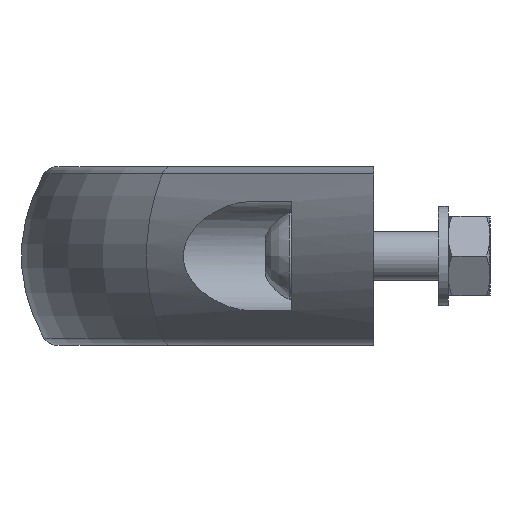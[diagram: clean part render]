
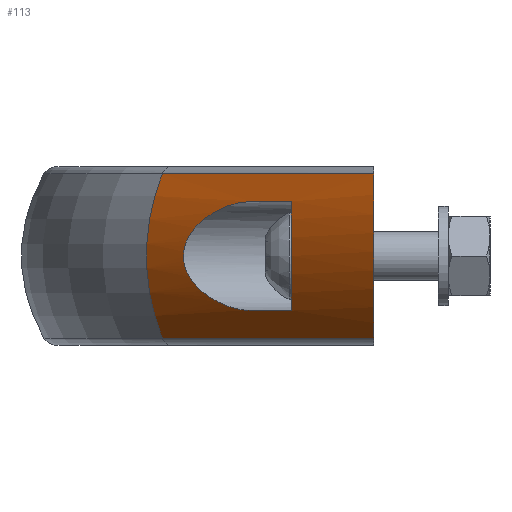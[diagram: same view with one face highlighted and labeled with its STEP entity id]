
A CAD part, left-side view. The second image highlights one B-rep face of the part: STEP entity #113.
In plain terms, the highlighted cylindrical face has radius 32.5 mm (diameter 65 mm), a partial arc.
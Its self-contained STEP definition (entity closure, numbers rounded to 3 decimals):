
#113 = ADVANCED_FACE( '', ( #289, #290 ), #291, .T. );
#289 = FACE_OUTER_BOUND( '', #607, .T. );
#290 = FACE_BOUND( '', #608, .T. );
#291 = CYLINDRICAL_SURFACE( '', #609, 32.5 );
#607 = EDGE_LOOP( '', ( #1100, #1101, #1102, #1103 ) );
#608 = EDGE_LOOP( '', ( #1104, #1105, #1106, #1107 ) );
#609 = AXIS2_PLACEMENT_3D( '', #1108, #1109, #1110 );
#1100 = ORIENTED_EDGE( '', *, *, #1810, .F. );
#1101 = ORIENTED_EDGE( '', *, *, #1811, .T. );
#1102 = ORIENTED_EDGE( '', *, *, #1812, .F. );
#1103 = ORIENTED_EDGE( '', *, *, #1807, .F. );
#1104 = ORIENTED_EDGE( '', *, *, #1813, .F. );
#1105 = ORIENTED_EDGE( '', *, *, #1814, .F. );
#1106 = ORIENTED_EDGE( '', *, *, #1815, .F. );
#1107 = ORIENTED_EDGE( '', *, *, #1816, .F. );
#1108 = CARTESIAN_POINT( '', ( -296.979, -65.558, 0. ) );
#1109 = DIRECTION( '', ( -0.707, -0.707, 0. ) );
#1110 = DIRECTION( '', ( -0.707, 0.707, 0. ) );
#1807 = EDGE_CURVE( '', #2139, #2142, #2143, .T. );
#1810 = EDGE_CURVE( '', #2147, #2139, #2148, .T. );
#1811 = EDGE_CURVE( '', #2147, #2149, #2150, .T. );
#1812 = EDGE_CURVE( '', #2142, #2149, #2151, .T. );
#1813 = EDGE_CURVE( '', #2152, #2153, #2154, .F. );
#1814 = EDGE_CURVE( '', #2155, #2152, #2156, .T. );
#1815 = EDGE_CURVE( '', #2157, #2155, #2158, .T. );
#1816 = EDGE_CURVE( '', #2153, #2157, #2159, .T. );
#2139 = VERTEX_POINT( '', #2860 );
#2142 = VERTEX_POINT( '', #2863 );
#2143 = LINE( '', #2864, #2865 );
#2147 = VERTEX_POINT( '', #2870 );
#2148 = ELLIPSE( '', #2871, 45.962, 32.5 );
#2149 = VERTEX_POINT( '', #2872 );
#2150 = LINE( '', #2873, #2874 );
#2151 = CIRCLE( '', #2875, 32.5 );
#2152 = VERTEX_POINT( '', #2876 );
#2153 = VERTEX_POINT( '', #2877 );
#2154 = LINE( '', #2878, #2879 );
#2155 = VERTEX_POINT( '', #2880 );
#2156 = B_SPLINE_CURVE_WITH_KNOTS( '', 3, ( #2881, #2882, #2883, #2884, #2885, #2886, #2887, #2888, #2889, #2890, #2891, #2892, #2893, #2894, #2895, #2896, #2897, #2898, #2899, #2900, #2901, #2902, #2903, #2904, #2905, #2906, #2907, #2908, #2909, #2910, #2911, #2912, #2913, #2914, #2915, #2916, #2917, #2918, #2919, #2920, #2921, #2922, #2923, #2924, #2925, #2926, #2927, #2928, #2929, #2930, #2931, #2932, #2933, #2934 ), .UNSPECIFIED., .F., .F., ( 4, 2, 2, 2, 2, 2, 2, 2, 2, 2, 2, 2, 2, 2, 2, 2, 2, 2, 2, 2, 2, 2, 2, 2, 2, 2, 4 ), ( 0.017, 0.019, 0.022, 0.025, 0.028, 0.031, 0.032, 0.034, 0.034, 0.035, 0.036, 0.037, 0.038, 0.039, 0.04, 0.041, 0.041, 0.042, 0.043, 0.045, 0.048, 0.05, 0.053, 0.056, 0.057, 0.059, 0.062 ), .UNSPECIFIED. );
#2157 = VERTEX_POINT( '', #2935 );
#2158 = LINE( '', #2936, #2937 );
#2159 = ELLIPSE( '', #2938, 45.962, 32.5 );
#2860 = CARTESIAN_POINT( '', ( -270.997, 0., -16.525 ) );
#2863 = CARTESIAN_POINT( '', ( -228.379, 42.619, -16.525 ) );
#2864 = CARTESIAN_POINT( '', ( -316.767, -45.77, -16.525 ) );
#2865 = VECTOR( '', #3380, 1000. );
#2870 = CARTESIAN_POINT( '', ( -270.997, 0., 16.525 ) );
#2871 = AXIS2_PLACEMENT_3D( '', #3385, #3386, #3387 );
#2872 = CARTESIAN_POINT( '', ( -228.379, 42.619, 16.525 ) );
#2873 = CARTESIAN_POINT( '', ( -316.767, -45.77, 16.525 ) );
#2874 = VECTOR( '', #3388, 1000. );
#2875 = AXIS2_PLACEMENT_3D( '', #3389, #3390, #3391 );
#2876 = CARTESIAN_POINT( '', ( -250., 24.67, -11. ) );
#2877 = CARTESIAN_POINT( '', ( -258.07, 16.6, -11. ) );
#2878 = CARTESIAN_POINT( '', ( -318.603, -43.933, -11. ) );
#2879 = VECTOR( '', #3392, 1000. );
#2880 = CARTESIAN_POINT( '', ( -250., 24.67, 11. ) );
#2881 = CARTESIAN_POINT( '', ( -250., 24.67, 11. ) );
#2882 = CARTESIAN_POINT( '', ( -249.332, 25.337, 11. ) );
#2883 = CARTESIAN_POINT( '', ( -248.687, 26.014, 10.94 ) );
#2884 = CARTESIAN_POINT( '', ( -247.433, 27.38, 10.715 ) );
#2885 = CARTESIAN_POINT( '', ( -246.825, 28.069, 10.551 ) );
#2886 = CARTESIAN_POINT( '', ( -245.641, 29.458, 10.119 ) );
#2887 = CARTESIAN_POINT( '', ( -245.062, 30.161, 9.85 ) );
#2888 = CARTESIAN_POINT( '', ( -243.959, 31.54, 9.215 ) );
#2889 = CARTESIAN_POINT( '', ( -243.433, 32.218, 8.849 ) );
#2890 = CARTESIAN_POINT( '', ( -242.429, 33.54, 8.007 ) );
#2891 = CARTESIAN_POINT( '', ( -241.952, 34.185, 7.532 ) );
#2892 = CARTESIAN_POINT( '', ( -241.278, 35.115, 6.712 ) );
#2893 = CARTESIAN_POINT( '', ( -241.059, 35.42, 6.419 ) );
#2894 = CARTESIAN_POINT( '', ( -240.644, 36.004, 5.796 ) );
#2895 = CARTESIAN_POINT( '', ( -240.447, 36.283, 5.468 ) );
#2896 = CARTESIAN_POINT( '', ( -240.172, 36.675, 4.945 ) );
#2897 = CARTESIAN_POINT( '', ( -240.084, 36.802, 4.766 ) );
#2898 = CARTESIAN_POINT( '', ( -239.914, 37.046, 4.396 ) );
#2899 = CARTESIAN_POINT( '', ( -239.833, 37.164, 4.204 ) );
#2900 = CARTESIAN_POINT( '', ( -239.603, 37.497, 3.618 ) );
#2901 = CARTESIAN_POINT( '', ( -239.47, 37.692, 3.211 ) );
#2902 = CARTESIAN_POINT( '', ( -239.303, 37.937, 2.572 ) );
#2903 = CARTESIAN_POINT( '', ( -239.253, 38.01, 2.354 ) );
#2904 = CARTESIAN_POINT( '', ( -239.164, 38.14, 1.909 ) );
#2905 = CARTESIAN_POINT( '', ( -239.126, 38.196, 1.679 ) );
#2906 = CARTESIAN_POINT( '', ( -239.034, 38.332, 0.981 ) );
#2907 = CARTESIAN_POINT( '', ( -239.002, 38.38, 0.512 ) );
#2908 = CARTESIAN_POINT( '', ( -238.999, 38.383, -0.2 ) );
#2909 = CARTESIAN_POINT( '', ( -239.006, 38.373, -0.439 ) );
#2910 = CARTESIAN_POINT( '', ( -239.035, 38.33, -0.914 ) );
#2911 = CARTESIAN_POINT( '', ( -239.058, 38.297, -1.148 ) );
#2912 = CARTESIAN_POINT( '', ( -239.116, 38.211, -1.61 ) );
#2913 = CARTESIAN_POINT( '', ( -239.152, 38.158, -1.838 ) );
#2914 = CARTESIAN_POINT( '', ( -239.238, 38.031, -2.288 ) );
#2915 = CARTESIAN_POINT( '', ( -239.288, 37.958, -2.51 ) );
#2916 = CARTESIAN_POINT( '', ( -239.455, 37.714, -3.162 ) );
#2917 = CARTESIAN_POINT( '', ( -239.588, 37.519, -3.572 ) );
#2918 = CARTESIAN_POINT( '', ( -239.889, 37.082, -4.353 ) );
#2919 = CARTESIAN_POINT( '', ( -240.058, 36.839, -4.724 ) );
#2920 = CARTESIAN_POINT( '', ( -240.609, 36.051, -5.783 ) );
#2921 = CARTESIAN_POINT( '', ( -241.022, 35.468, -6.396 ) );
#2922 = CARTESIAN_POINT( '', ( -241.919, 34.23, -7.497 ) );
#2923 = CARTESIAN_POINT( '', ( -242.407, 33.57, -7.987 ) );
#2924 = CARTESIAN_POINT( '', ( -243.422, 32.231, -8.841 ) );
#2925 = CARTESIAN_POINT( '', ( -243.951, 31.55, -9.209 ) );
#2926 = CARTESIAN_POINT( '', ( -245.052, 30.173, -9.845 ) );
#2927 = CARTESIAN_POINT( '', ( -245.624, 29.478, -10.112 ) );
#2928 = CARTESIAN_POINT( '', ( -246.52, 28.427, -10.44 ) );
#2929 = CARTESIAN_POINT( '', ( -246.824, 28.076, -10.536 ) );
#2930 = CARTESIAN_POINT( '', ( -247.439, 27.38, -10.702 ) );
#2931 = CARTESIAN_POINT( '', ( -247.749, 27.035, -10.772 ) );
#2932 = CARTESIAN_POINT( '', ( -248.693, 26.007, -10.941 ) );
#2933 = CARTESIAN_POINT( '', ( -249.338, 25.332, -11. ) );
#2934 = CARTESIAN_POINT( '', ( -250., 24.67, -11. ) );
#2935 = CARTESIAN_POINT( '', ( -258.07, 16.6, 11. ) );
#2936 = CARTESIAN_POINT( '', ( -318.603, -43.933, 11. ) );
#2937 = VECTOR( '', #3393, 1000. );
#2938 = AXIS2_PLACEMENT_3D( '', #3394, #3395, #3396 );
#3380 = DIRECTION( '', ( 0.707, 0.707, 0. ) );
#3385 = CARTESIAN_POINT( '', ( -231.42, 0., 0. ) );
#3386 = DIRECTION( '', ( 0., -1., 0. ) );
#3387 = DIRECTION( '', ( 1., 0., 0. ) );
#3388 = DIRECTION( '', ( 0.707, 0.707, 0. ) );
#3389 = CARTESIAN_POINT( '', ( -208.59, 22.83, 0. ) );
#3390 = DIRECTION( '', ( 0.707, 0.707, 0. ) );
#3391 = DIRECTION( '', ( 0., 0., -1. ) );
#3392 = DIRECTION( '', ( 0.707, 0.707, 0. ) );
#3393 = DIRECTION( '', ( 0.707, 0.707, 0. ) );
#3394 = CARTESIAN_POINT( '', ( -214.82, 16.6, 0. ) );
#3395 = DIRECTION( '', ( 0., 1., 0. ) );
#3396 = DIRECTION( '', ( 1., 0., 0. ) );
